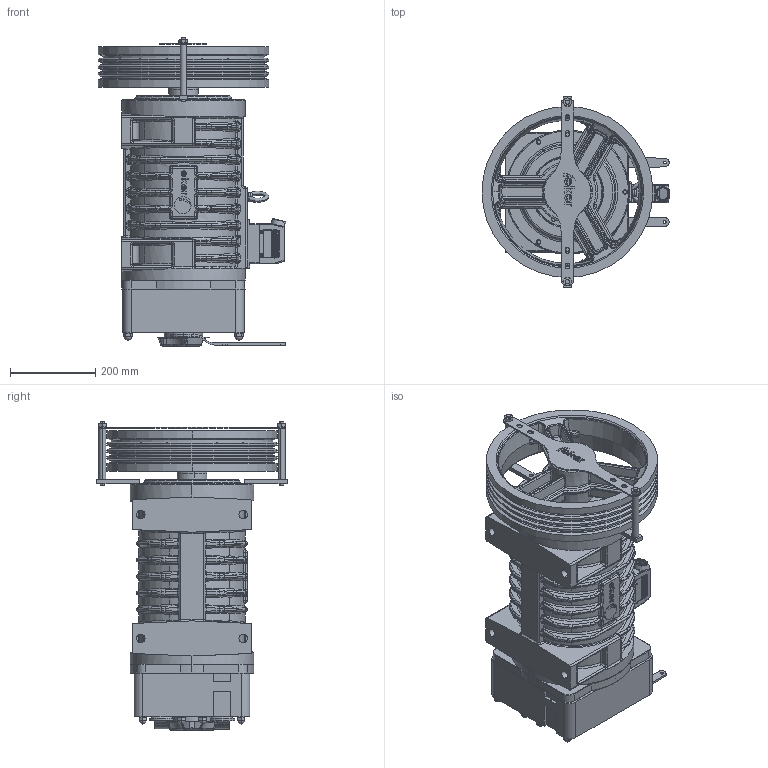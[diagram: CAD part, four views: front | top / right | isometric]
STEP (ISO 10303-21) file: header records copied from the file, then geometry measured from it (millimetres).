
FILE_DESCRIPTION (( 'STEP AP214' ), '1' );
FILE_NAME ('QS44063100.STEP', '2026-01-07T08:51:57', ( '' ), ( '' ), 'SwSTEP 2.0', 'SolidWorks 2023', '' );
FILE_SCHEMA (( 'AUTOMOTIVE_DESIGN' ));
Length unit declared in the file: millimetre
Products named in the file (1): QS44063100
Bounding box: 440.1 x 445 x 721.5 mm (x, y, z)
Volume: 39633178.1 mm3; surface area: 1774716.7 mm2
Topology: 13 solids, 52 shells, 4389 faces, 10569 edges, 6007 vertices
Faces by surface type: bspline 1514, cylinder 1256, plane 871, sphere 284, cone 243, torus 221
Entity records: 165554 total; most frequent: CARTESIAN_POINT 78556, ORIENTED_EDGE 20348, DIRECTION 15695, EDGE_CURVE 10174, AXIS2_PLACEMENT_3D 6348, VERTEX_POINT 5999, EDGE_LOOP 4601, FACE_OUTER_BOUND 4389
